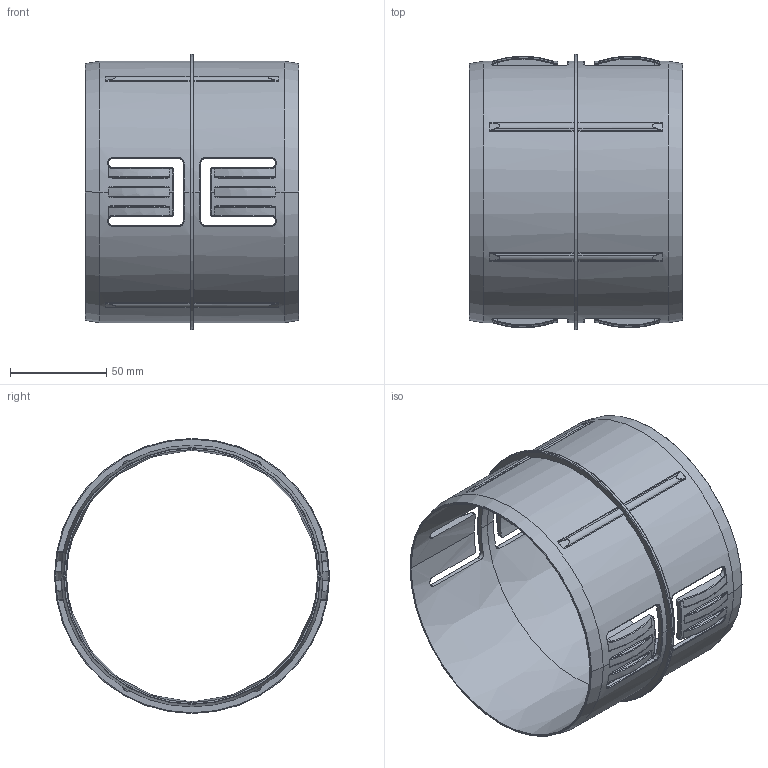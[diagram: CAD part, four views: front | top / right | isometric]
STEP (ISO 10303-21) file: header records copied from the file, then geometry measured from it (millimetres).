
FILE_DESCRIPTION (( 'STEP AP214' ), '1' );
FILE_NAME ('KP_CC-160.STEP', '2025-01-09T11:02:45', ( '' ), ( '' ), 'SwSTEP 2.0', 'SolidWorks 2023', '' );
FILE_SCHEMA (( 'AUTOMOTIVE_DESIGN' ));
Length unit declared in the file: millimetre
Products named in the file (1): KP_CC-160
Bounding box: 111 x 143.1 x 143.1 mm (x, y, z)
Volume: 114677.5 mm3; surface area: 96082.3 mm2
Topology: 1 solids, 1 shells, 376 faces, 932 edges, 550 vertices
Faces by surface type: bspline 144, cylinder 102, torus 60, plane 50, cone 20
Entity records: 18365 total; most frequent: CARTESIAN_POINT 10503, ORIENTED_EDGE 1864, DIRECTION 1396, EDGE_CURVE 932, AXIS2_PLACEMENT_3D 599, VERTEX_POINT 550, EDGE_LOOP 378, ADVANCED_FACE 376
